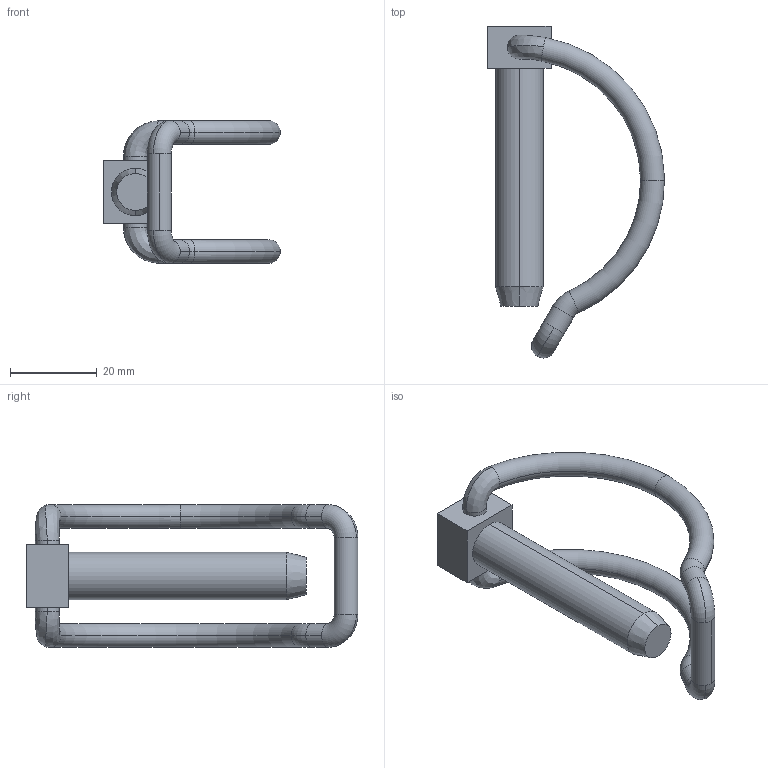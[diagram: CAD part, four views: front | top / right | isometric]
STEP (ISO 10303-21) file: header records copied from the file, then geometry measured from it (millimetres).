
FILE_DESCRIPTION (( 'STEP AP203' ), '1' );
FILE_NAME ('33320.W0112.step', '2025-02-04T13:41:44', ( '' ), ( '' ), 'SwSTEP 2.0', 'SolidWorks 2019', '' );
FILE_SCHEMA (( 'CONFIG_CONTROL_DESIGN' ));
Length unit declared in the file: millimetre
Products named in the file (3): 33320.W0112; part1_33320.W0112; Part5_33320.W0112
Assembly tree (2 placements, depth 2):
  33320.W0112
    part1_33320.W0112
    Part5_33320.W0112
Bounding box: 40.87 x 76.67 x 33 mm (x, y, z)
Volume: 12429.8 mm3; surface area: 7135 mm2
Topology: 2 solids, 2 shells, 43 faces, 98 edges, 60 vertices
Faces by surface type: cylinder 14, torus 14, plane 9, bspline 4, cone 2
Entity records: 1827 total; most frequent: CARTESIAN_POINT 518, DIRECTION 248, ORIENTED_EDGE 196, AXIS2_PLACEMENT_3D 110, EDGE_CURVE 98, CIRCLE 66, VERTEX_POINT 60, EDGE_LOOP 46
